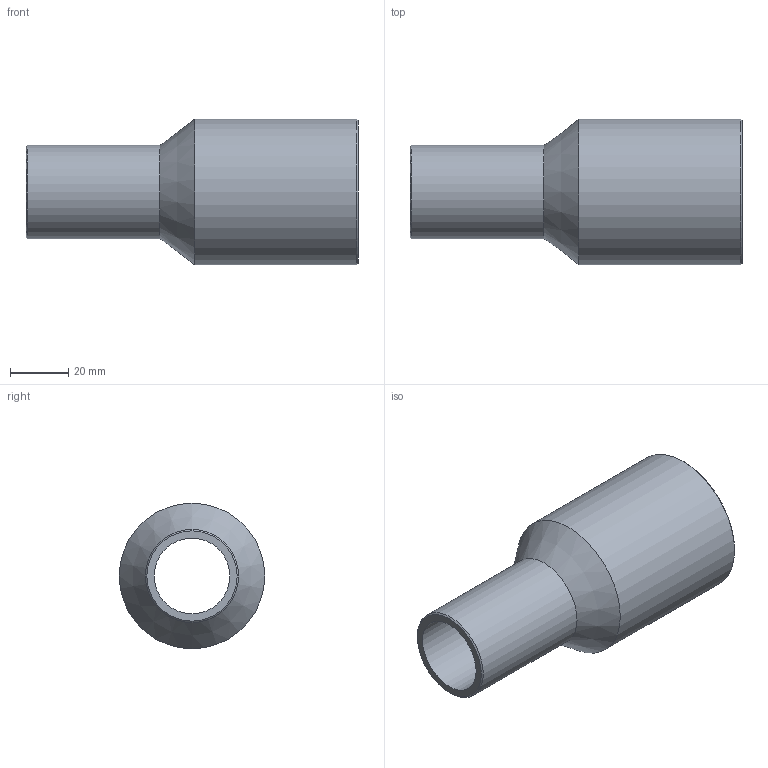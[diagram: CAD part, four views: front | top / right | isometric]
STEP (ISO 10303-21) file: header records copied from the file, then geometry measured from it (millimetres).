
FILE_DESCRIPTION(/* description */ ('Unknown'),/* implementation_level */ '2;1');
FILE_NAME(/* name */ 'RP050032C',/* time_stamp */ '2021-09-17T14:56:16+02:00',/* author */ ('Unknown'),/* organization */ ('Unknown'),/* preprocessor_version */ 'ST-DEVELOPER v16.7',/* originating_system */ 'Solid Edge',/* authorisation */ 'Unknown');
FILE_SCHEMA (('AUTOMOTIVE_DESIGN {1 0 10303 214 3 1 1}'));
Length unit declared in the file: millimetre
Products named in the file (1): RP050032C
Bounding box: 114 x 50 x 50 mm (x, y, z)
Volume: 56720.6 mm3; surface area: 28465.5 mm2
Topology: 1 solids, 1 shells, 10 faces, 19 edges, 11 vertices
Faces by surface type: cylinder 4, cone 4, plane 2
Full cylindrical faces by diameter (mm): 26 x1, 32 x1, 40.8 x1, 50 x1
Entity records: 238 total; most frequent: DIRECTION 42, CARTESIAN_POINT 31, AXIS2_PLACEMENT_3D 21, ORIENTED_EDGE 20, EDGE_LOOP 20, FACE_BOUND 20, EDGE_CURVE 10, VERTEX_POINT 10
